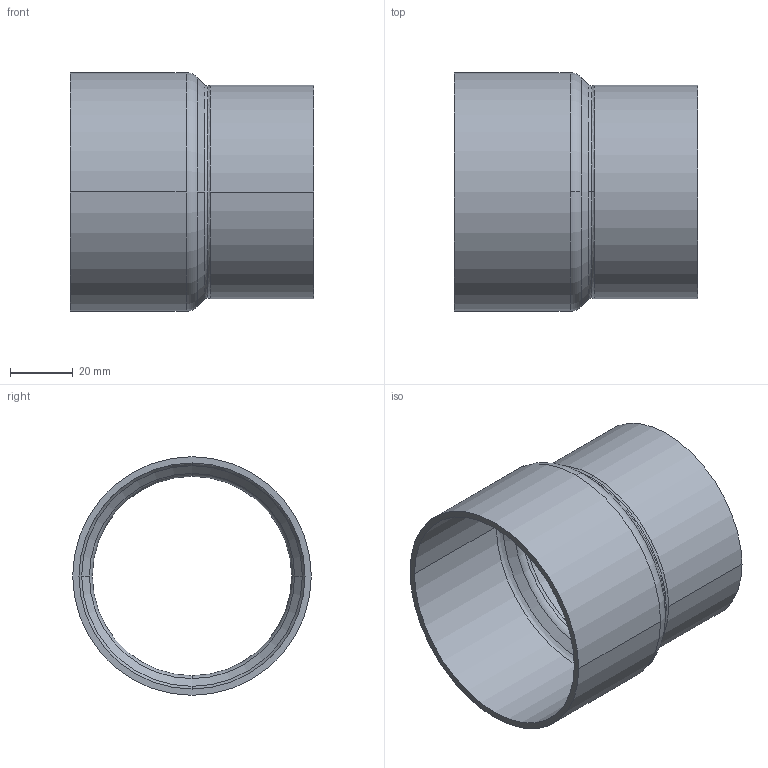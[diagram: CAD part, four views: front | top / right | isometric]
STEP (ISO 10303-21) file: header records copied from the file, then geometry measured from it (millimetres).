
FILE_DESCRIPTION((''),'2;1');
FILE_NAME('G:\Technics\CAD\Bauteile\Serie 15243\152437664.stp','2005-10-21T12:49:52',('boden'),(''),'Autodesk Inventor 8','Autodesk Inventor 8','');
FILE_SCHEMA(('AUTOMOTIVE_DESIGN { 1 0 10303 214 1 1 1 1 }'));
Length unit declared in the file: millimetre
Products named in the file (1): 152437664
Bounding box: 77.6 x 76.1 x 76.1 mm (x, y, z)
Volume: 34951.2 mm3; surface area: 35834.4 mm2
Topology: 1 solids, 1 shells, 26 faces, 68 edges, 44 vertices
Faces by surface type: cylinder 8, torus 6, bspline 6, cone 4, plane 2
Entity records: 1103 total; most frequent: CARTESIAN_POINT 403, DIRECTION 166, ORIENTED_EDGE 136, AXIS2_PLACEMENT_3D 77, EDGE_CURVE 68, CIRCLE 56, VERTEX_POINT 44, EDGE_LOOP 28
